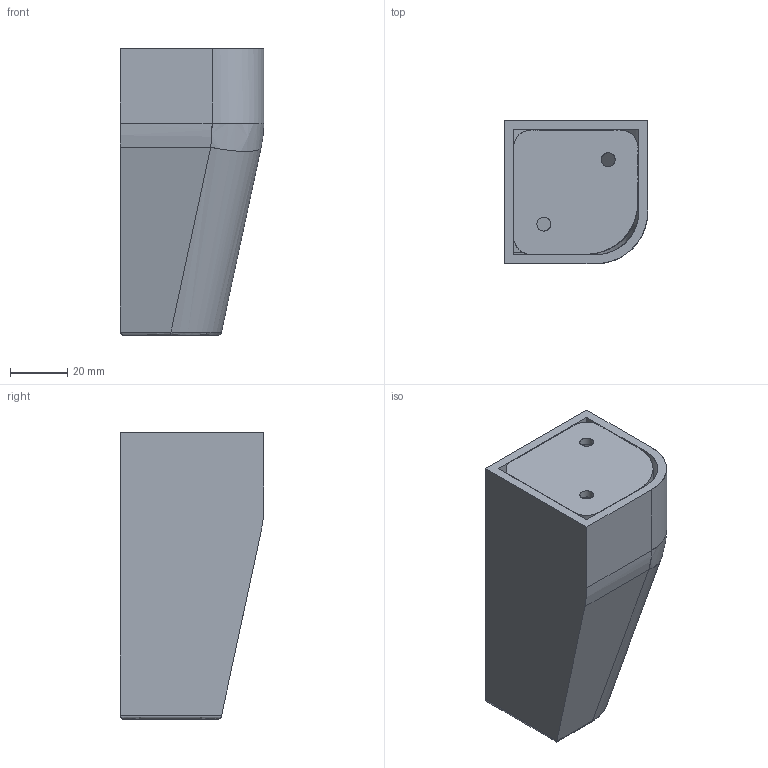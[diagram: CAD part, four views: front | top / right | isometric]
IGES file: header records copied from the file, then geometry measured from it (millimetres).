
Start section: C
Global section: file name: 0066-100.igs; native system: By Siemens PLM Incorporated; preprocessor: XPlus GENERIC/IGES 16.0.42; author: Author; organization: Title; date: 20231129.114022; units: millimetre
Bounding box: 50 x 50 x 100 mm (x, y, z)
Surface area: 44996.1 mm2 (no closed solid volume)
Topology: 0 solids, 0 shells, 110 faces, 610 edges, 610 vertices
Faces by surface type: bspline 110
